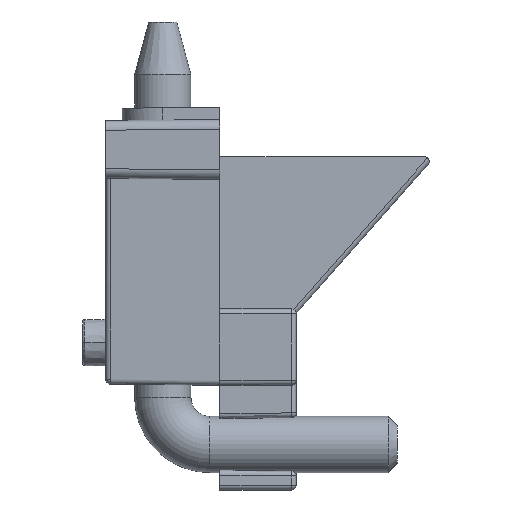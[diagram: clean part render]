
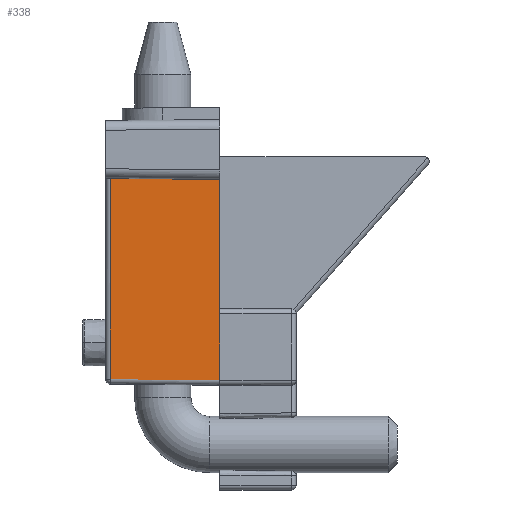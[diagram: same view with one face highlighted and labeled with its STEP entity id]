
A CAD part, top view. The second image highlights one B-rep face of the part: STEP entity #338.
In plain terms, the highlighted planar face has unit normal (-0.011, 0, 1) as drawn and (1, 0, 0.01) by its records, which use the part's own axes.
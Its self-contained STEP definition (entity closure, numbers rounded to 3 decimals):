
#54 = VECTOR ( 'NONE', #2746, 1000. ) ;
#146 = CARTESIAN_POINT ( 'NONE',  ( 5.607, -11.526, 11.645 ) ) ;
#182 = ORIENTED_EDGE ( 'NONE', *, *, #2232, .T. ) ;
#287 = EDGE_CURVE ( 'NONE', #1427, #3883, #2158, .T. ) ;
#304 = ORIENTED_EDGE ( 'NONE', *, *, #946, .F. ) ;
#338 = ADVANCED_FACE ( 'NONE', ( #3384 ), #1900, .T. ) ;
#473 = EDGE_CURVE ( 'NONE', #3376, #3765, #3020, .T. ) ;
#562 = CARTESIAN_POINT ( 'NONE',  ( 5.729, 9.747, -0.021 ) ) ;
#849 = VECTOR ( 'NONE', #965, 1000. ) ;
#926 = CARTESIAN_POINT ( 'NONE',  ( 5.607, -11.521, 11.645 ) ) ;
#946 = EDGE_CURVE ( 'NONE', #3376, #3883, #3045, .T. ) ;
#965 = DIRECTION ( 'NONE',  ( 0., 1., 0. ) ) ;
#1102 = EDGE_LOOP ( 'NONE', ( #304, #2614, #182, #2814, #3053, #1840 ) ) ;
#1137 = CARTESIAN_POINT ( 'NONE',  ( 5.729, -11.649, -0.021 ) ) ;
#1216 = DIRECTION ( 'NONE',  ( 0., -1., 0. ) ) ;
#1273 = CARTESIAN_POINT ( 'NONE',  ( 5.729, 9.747, -0.021 ) ) ;
#1427 = VERTEX_POINT ( 'NONE', #3568 ) ;
#1794 = VECTOR ( 'NONE', #1216, 1000. ) ;
#1840 = ORIENTED_EDGE ( 'NONE', *, *, #287, .T. ) ;
#1851 = CARTESIAN_POINT ( 'NONE',  ( 5.729, 9.747, -0.021 ) ) ;
#1871 = VERTEX_POINT ( 'NONE', #2625 ) ;
#1896 = LINE ( 'NONE', #1851, #3760 ) ;
#1900 = PLANE ( 'NONE',  #3774 ) ;
#2158 = LINE ( 'NONE', #1273, #2449 ) ;
#2232 = EDGE_CURVE ( 'NONE', #3765, #1871, #3171, .T. ) ;
#2449 = VECTOR ( 'NONE', #3707, 1000. ) ;
#2476 = CARTESIAN_POINT ( 'NONE',  ( 5.729, 9.747, -0.021 ) ) ;
#2510 = LINE ( 'NONE', #2800, #849 ) ;
#2563 = DIRECTION ( 'NONE',  ( 0.01, -0.01, -1. ) ) ;
#2614 = ORIENTED_EDGE ( 'NONE', *, *, #473, .T. ) ;
#2625 = CARTESIAN_POINT ( 'NONE',  ( 5.729, -11.649, -0.021 ) ) ;
#2659 = EDGE_CURVE ( 'NONE', #1871, #3656, #2510, .T. ) ;
#2677 = EDGE_CURVE ( 'NONE', #3656, #1427, #1896, .T. ) ;
#2746 = DIRECTION ( 'NONE',  ( 0.01, -0.01, -1. ) ) ;
#2794 = CARTESIAN_POINT ( 'NONE',  ( 5.607, 9.869, 11.645 ) ) ;
#2800 = CARTESIAN_POINT ( 'NONE',  ( 5.729, 9.747, -0.021 ) ) ;
#2814 = ORIENTED_EDGE ( 'NONE', *, *, #2659, .T. ) ;
#3002 = CARTESIAN_POINT ( 'NONE',  ( 5.729, 9.747, -0.021 ) ) ;
#3020 = LINE ( 'NONE', #926, #1794 ) ;
#3045 = LINE ( 'NONE', #3002, #54 ) ;
#3053 = ORIENTED_EDGE ( 'NONE', *, *, #2677, .T. ) ;
#3171 = LINE ( 'NONE', #3789, #3828 ) ;
#3376 = VERTEX_POINT ( 'NONE', #2794 ) ;
#3384 = FACE_OUTER_BOUND ( 'NONE', #1102, .T. ) ;
#3407 = DIRECTION ( 'NONE',  ( 0.01, 0., -1. ) ) ;
#3428 = DIRECTION ( 'NONE',  ( 1., 0., 0.01 ) ) ;
#3568 = CARTESIAN_POINT ( 'NONE',  ( 5.729, -4.551, -0.021 ) ) ;
#3656 = VERTEX_POINT ( 'NONE', #1137 ) ;
#3681 = DIRECTION ( 'NONE',  ( 0., 1., 0. ) ) ;
#3707 = DIRECTION ( 'NONE',  ( 0., 1., 0. ) ) ;
#3760 = VECTOR ( 'NONE', #3681, 1000. ) ;
#3765 = VERTEX_POINT ( 'NONE', #146 ) ;
#3774 = AXIS2_PLACEMENT_3D ( 'NONE', #2476, #3428, #3407 ) ;
#3789 = CARTESIAN_POINT ( 'NONE',  ( 5.727, -11.646, 0.203 ) ) ;
#3828 = VECTOR ( 'NONE', #2563, 1000. ) ;
#3883 = VERTEX_POINT ( 'NONE', #562 ) ;
